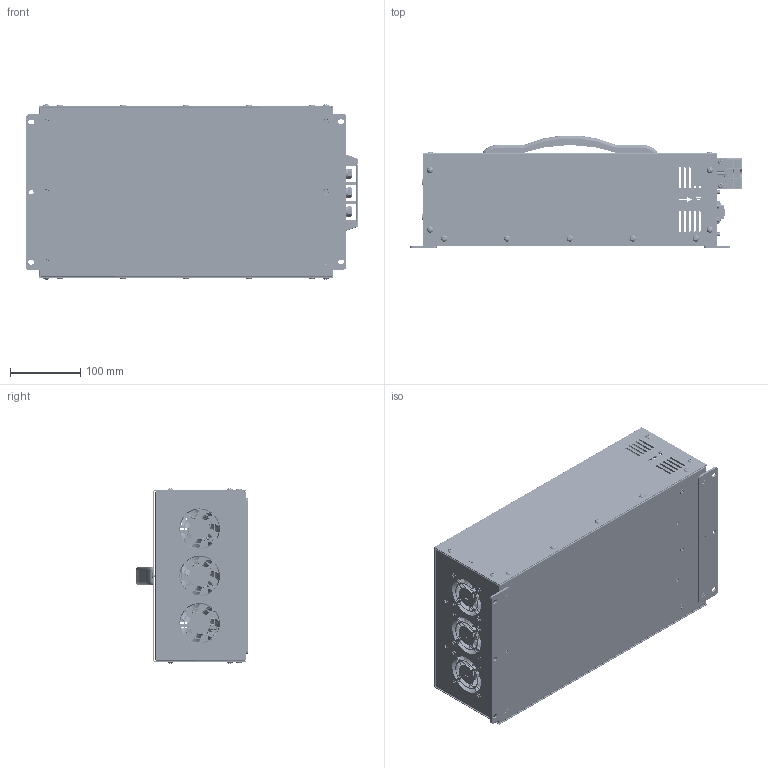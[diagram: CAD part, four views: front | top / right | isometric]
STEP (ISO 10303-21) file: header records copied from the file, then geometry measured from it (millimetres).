
FILE_DESCRIPTION(/* description */ (''),/* implementation_level */ '2;1');
FILE_NAME(/* name */ '',/* time_stamp */ '2026-06-11T14:59:56+09:00',/* author */ ('Administrator'),/* organization */ (''),/* preprocessor_version */ 'ST-DEVELOPER v20.1',/* originating_system */ 'Autodesk Inventor 2026',/* authorisation */ '');
FILE_SCHEMA (('AUTOMOTIVE_DESIGN { 1 0 10303 214 3 1 1 }'));
Products named in the file (1): VX3COM_OLED_HANDLE1_2026.06.11_단순화_1
Bounding box: 473.7 x 160.67 x 250.09 mm (x, y, z)
Volume: 815749.3 mm3; surface area: 986647 mm2
Topology: 15 solids, 15 shells, 9103 faces, 24228 edges, 15672 vertices
Faces by surface type: plane 5342, cylinder 1988, bspline 1466, torus 176, cone 78, sphere 53
Full cylindrical faces by diameter (mm): 0.013 x9, 0.6 x3, 0.609 x1, 0.61 x27, 0.635 x9, 0.7 x18, 0.75 x18, 0.85 x3, 0.9 x24, 1 x5, 1.397 x9, 1.5 x4, 2.1 x4, 2.286 x9, 2.5 x4, 2.8 x12, 2.957 x12, 3 x6, 3.048 x4, 3.4 x6, 3.6 x19, 3.783 x2, 3.8 x8, 3.9 x2, 4 x27, 4.3 x12, 4.5 x27, 5 x21, 5.3 x20, 5.4 x6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
Entity records: 327397 total; most frequent: CARTESIAN_POINT 96150, ORIENTED_EDGE 48394, DIRECTION 42068, EDGE_CURVE 24197, VERTEX_POINT 15672, LINE 15550, VECTOR 15550, AXIS2_PLACEMENT_3D 13259
